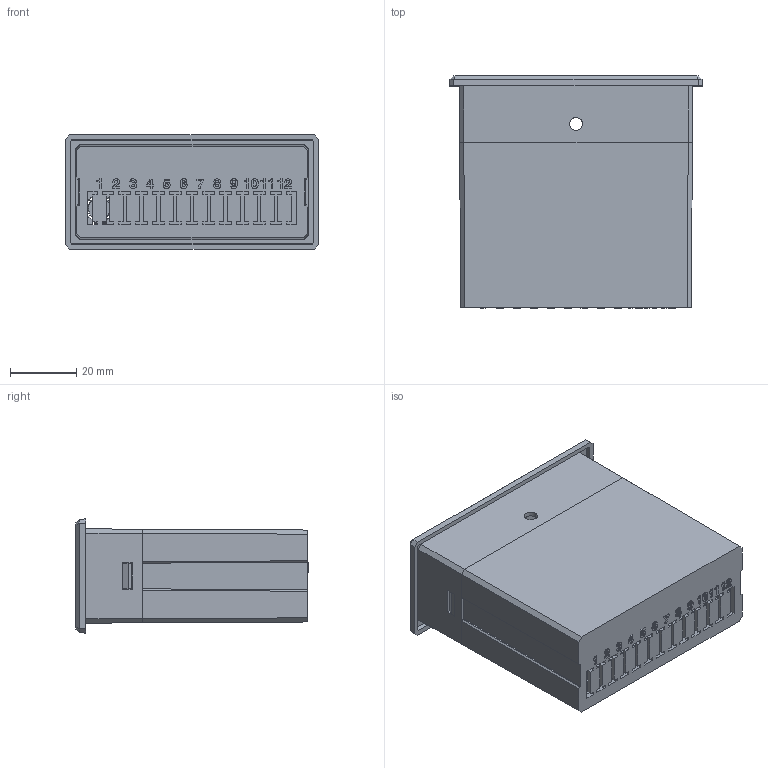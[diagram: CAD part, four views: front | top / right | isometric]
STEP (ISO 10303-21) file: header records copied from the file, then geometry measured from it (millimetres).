
FILE_DESCRIPTION (( 'STEP AP203' ), '1' );
FILE_NAME ('PPT102.STEP', '2018-11-27T05:57:29', ( '' ), ( '' ), 'SwSTEP 2.0', 'SolidWorks 2018', '' );
FILE_SCHEMA (( 'CONFIG_CONTROL_DESIGN' ));
Length unit declared in the file: millimetre
Products named in the file (1): PPT102
Bounding box: 76.5 x 70.15 x 34.5 mm (x, y, z)
Volume: 28631.5 mm3; surface area: 37577.7 mm2
Topology: 2 solids, 2 shells, 600 faces, 1747 edges, 1162 vertices
Faces by surface type: plane 476, bspline 100, cylinder 14, cone 10
Entity records: 24816 total; most frequent: CARTESIAN_POINT 9564, ORIENTED_EDGE 3494, DIRECTION 2537, EDGE_CURVE 1747, VECTOR 1487, LINE 1487, VERTEX_POINT 1162, EDGE_LOOP 651
